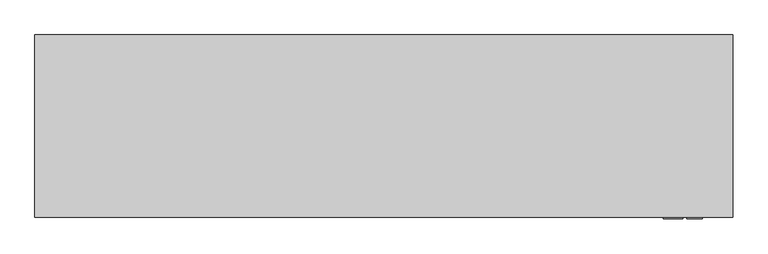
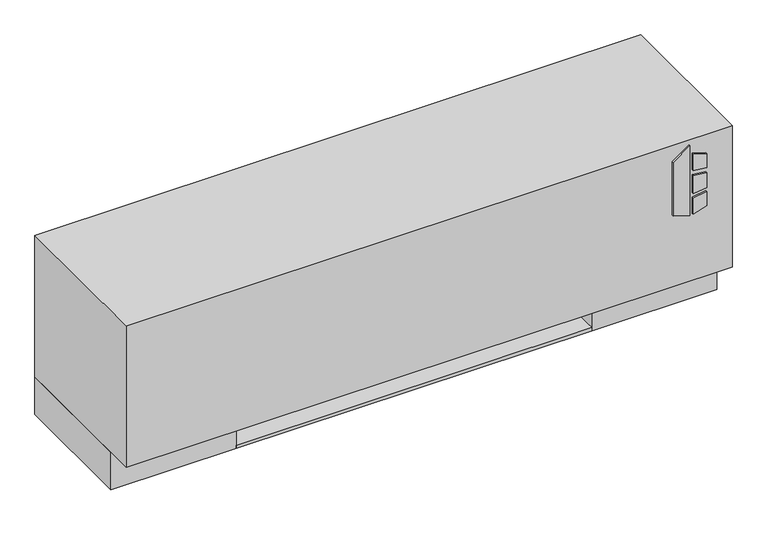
"""IFC4 building model written with IfcOpenShell, lengths in millimetres: proxy geometry, Exposed_Low_Boy_Fan_Coil_Unit Fan_-_LXA_-_IEC_-_2-Pipe_RH_2022 : Size 03 - 277v/60Hz/1Ph - 2/1 Coil."""

from ifc_helpers import new_model, si_unit, point, frame, frame_2d, origin, origin_with_axes, place, context, project, spatial, polyline, circle_curve, trimmed, segment, composite_curve, outline, extrude, faceted_brep, source, transform, mapped, element, save


def mechanical_equipment_ad819670(model_context):
    return source(origin(), model_context, "Body", "SolidModel", [
        faceted_brep([(1257.3, -266.7, 114.3), (1079.5, -266.7, 114.3), (1079.5, -520.7, 114.3), (1257.3, -520.7, 114.3), (1082.675, -269.875, 114.3), (1254.125, -269.875, 114.3), (1254.125, -517.525, 114.3), (1082.675, -517.525, 114.3), (1257.3, -266.7, 88.9), (1257.3, -520.7, 88.9), (1079.5, -520.7, 88.9), (1079.5, -266.7, 88.9), (1254.125, -269.875, 92.0747888), (1082.675, -269.875, 92.0747888), (1082.675, -517.525, 92.0747888), (1254.125, -517.525, 92.0747888)], [[[0, 1, 2, 3], [4, 5, 6, 7]], [[8, 9, 10, 11]], [[1, 0, 8, 11]], [[2, 1, 11, 10]], [[3, 2, 10, 9]], [[0, 3, 9, 8]], [[12, 13, 14, 15]], [[13, 12, 5, 4]], [[14, 13, 4, 7]], [[15, 14, 7, 6]], [[12, 15, 6, 5]]]),
        extrude(outline(composite_curve([segment(trimmed(circle_curve(frame_2d((1168.4, -393.7)), 9.525), [point((1158.875, -393.7))], [point((1177.925, -393.7))], False, "CARTESIAN"), True, "CONTINUOUS"), segment(trimmed(circle_curve(frame_2d((1168.4, -393.7)), 9.525), [point((1177.925, -393.7))], [point((1158.875, -393.7))], False, "CARTESIAN"), True, "CONTINUOUS")], self_intersect=False)), frame((0.0, 0.0, 63.5), z_axis=(0.0, 0.0, 1.0), x_axis=(1.0, 0.0, 0.0)), (0.0, 0.0, 1.0), 25.4),
        extrude(outline(polyline([(222.6730703, 1204.9868862), (212.725, 1237.1602728), (354.8959244, 1237.1602728), (331.8739183, 1204.9868862), (222.6730703, 1204.9868862)])), frame((0.0, -546.1, 0.0), z_axis=(0.0, 1.0, 0.0), x_axis=(0.0, 0.0, 1.0)), (0.0, 0.0, 1.0), 3.175),
        extrude(outline(polyline([(301.6723557, 1243.9186058), (298.4699632, 1270.0), (327.6988042, 1270.0), (335.7632193, 1243.9186058), (301.6723557, 1243.9186058)])), frame((0.0, -546.1, 0.0), z_axis=(0.0, 1.0, 0.0), x_axis=(0.0, 0.0, 1.0)), (0.0, 0.0, 1.0), 3.175),
        extrude(outline(polyline([(249.8088288, 1270.0), (246.1433279, 1243.9186058), (212.725, 1243.9186058), (221.3592372, 1270.0), (249.8088288, 1270.0)])), frame((0.0, -546.1, 0.0), z_axis=(0.0, 1.0, 0.0), x_axis=(0.0, 0.0, 1.0)), (0.0, 0.0, 1.0), 3.175),
        extrude(outline(polyline([(289.1239903, 1270.0), (291.4058166, 1243.9186058), (255.4682681, 1243.9186058), (258.2095331, 1270.0), (289.1239903, 1270.0)])), frame((0.0, -546.1, 0.0), z_axis=(0.0, 1.0, 0.0), x_axis=(0.0, 0.0, 1.0)), (0.0, 0.0, 1.0), 3.175),
        faceted_brep([(1320.8, -238.125, 365.125), (152.4, -238.125, 365.125), (152.4, -542.925, 365.125), (1320.8, -542.925, 365.125), (1320.8, -238.125, 76.2), (1320.8, -542.925, 76.2), (152.4, -542.925, 76.2), (152.4, -238.125, 76.2), (165.1, -238.125, 76.2), (165.1, -517.525, 76.2), (393.7, -517.525, 76.2), (393.7, -238.125, 76.2), (1079.5, -238.125, 76.2), (1079.5, -517.525, 76.2), (1308.1, -517.525, 76.2), (1308.1, -238.125, 76.2), (1308.1, -238.125, 339.725), (1079.5, -238.125, 339.725), (393.7, -238.125, 339.725), (165.1, -238.125, 339.725), (1308.1, -517.525, 339.725), (1079.5, -517.525, 339.725), (393.7, -517.525, 339.725), (165.1, -517.525, 339.725)], [[[0, 1, 2, 3]], [[4, 5, 6, 7, 8, 9, 10, 11, 12, 13, 14, 15]], [[1, 0, 4, 15, 16, 17, 12, 11, 18, 19, 8, 7]], [[2, 1, 7, 6]], [[3, 2, 6, 5]], [[0, 3, 5, 4]], [[16, 20, 21, 17]], [[18, 22, 23, 19]], [[17, 21, 13, 12]], [[21, 20, 14, 13]], [[20, 16, 15, 14]], [[19, 23, 9, 8]], [[23, 22, 10, 9]], [[22, 18, 11, 10]]]),
        extrude(outline(polyline([(1079.5, -492.125), (393.7, -492.125), (393.7, -244.475), (1079.5, -244.475), (1079.5, -492.125)])), origin_with_axes(), (0.0, 0.0, 1.0), 6.35),
        extrude(outline(polyline([(1079.5, -238.125), (1079.5, -244.475), (393.7, -244.475), (393.7, -238.125), (1079.5, -238.125)])), origin_with_axes(), (0.0, 0.0, 1.0), 76.2),
        extrude(outline(polyline([(1320.8, -238.125), (1320.8, -492.125), (1079.5, -492.125), (1079.5, -238.125), (1320.8, -238.125)]), holes=[polyline([(1092.2, -485.775), (1308.1, -485.775), (1308.1, -244.475), (1092.2, -244.475), (1092.2, -485.775)])]), origin_with_axes(), (0.0, 0.0, 1.0), 76.2),
        extrude(outline(polyline([(393.7, -238.125), (393.7, -492.125), (152.4, -492.125), (152.4, -238.125), (393.7, -238.125)]), holes=[polyline([(381.0, -244.475), (165.1, -244.475), (165.1, -485.775), (381.0, -485.775), (381.0, -244.475)])]), origin_with_axes(), (0.0, 0.0, 1.0), 76.2),
        extrude(outline(composite_curve([segment(trimmed(circle_curve(frame_2d((-485.775, 227.0125)), 7.9375), [point((-485.775, 219.075))], [point((-485.775, 234.95))], False, "CARTESIAN"), True, "CONTINUOUS"), segment(trimmed(circle_curve(frame_2d((-485.775, 227.0125)), 7.9375), [point((-485.775, 234.95))], [point((-485.775, 219.075))], False, "CARTESIAN"), True, "CONTINUOUS")], self_intersect=False)), frame((1079.5, 0.0, 0.0), z_axis=(1.0, 0.0, 0.0), x_axis=(0.0, 1.0, 0.0)), (0.0, 0.0, 1.0), 50.8),
        extrude(outline(composite_curve([segment(trimmed(circle_curve(frame_2d((-269.875, 273.05)), 7.9375), [point((-269.875, 265.1125))], [point((-269.875, 280.9875))], False, "CARTESIAN"), True, "CONTINUOUS"), segment(trimmed(circle_curve(frame_2d((-269.875, 273.05)), 7.9375), [point((-269.875, 280.9875))], [point((-269.875, 265.1125))], False, "CARTESIAN"), True, "CONTINUOUS")], self_intersect=False)), frame((1079.5, 0.0, 0.0), z_axis=(1.0, 0.0, 0.0), x_axis=(0.0, 1.0, 0.0)), (0.0, 0.0, 1.0), 50.8),
    ])


if __name__ == "__main__":
    model = new_model("IFC4")
    model_context = context("Model", 3, world=origin())
    ifc_project = project(units=[si_unit("LENGTHUNIT", "METRE", prefix="MILLI")], contexts=[model_context])
    site = spatial("IfcSite", under=ifc_project)
    building = spatial("IfcBuilding", under=site)
    placement = place(None, origin())
    mechanical_equipment_shape = mechanical_equipment_ad819670(model_context)
    element("IfcBuildingElementProxy", 1, Name="Exposed_Low_Boy_Fan_Coil_Unit Fan_-_LXA_-_IEC_-_2-Pipe_RH_2022 : Size 03 - 277v/60Hz/1Ph - 2/1 Coil", ObjectType="Exposed_Low_Boy_Fan_Coil_Unit Fan_-_LXA_-_IEC_-_2-Pipe_RH_2022 : Size 03 - 277v/60Hz/1Ph - 2/1 Coil", at=placement, inside=building, context=model_context, shape_type="MappedRepresentation", body=[
        mapped(mechanical_equipment_shape, transform((0.0, 0.0, 0.0), x_axis=(1.0, 0.0, 0.0), y_axis=(0.0, 1.0, 0.0), z_axis=(0.0, 0.0, 1.0))),
    ])
    save(model, "model.ifc")
